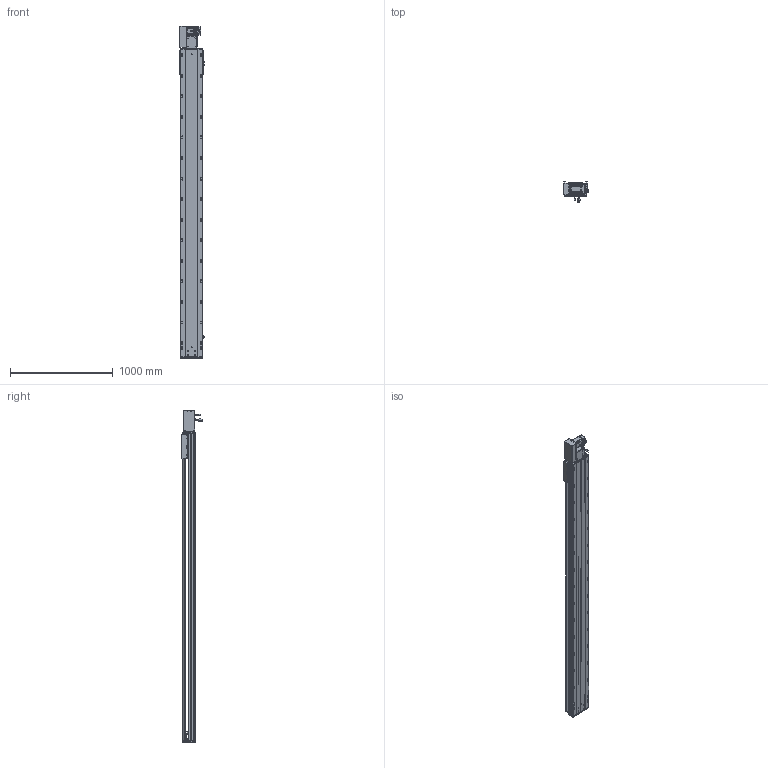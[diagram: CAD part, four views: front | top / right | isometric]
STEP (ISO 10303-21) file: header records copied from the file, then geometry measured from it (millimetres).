
FILE_DESCRIPTION (( 'STEP AP203' ), '1' );
FILE_NAME ('RY220-T-300-LK.SLDASM_2650.step', '2022-07-25T08:16:08', ( '' ), ( '' ), 'SwSTEP 2.0', 'SolidWorks 2016', '' );
FILE_SCHEMA (( 'CONFIG_CONTROL_DESIGN' ));
Length unit declared in the file: millimetre
Products named in the file (14): 覜茼ん672; RY220圉猾敕々湍臏賑輸; RY220-T菁釱-300_2650; RY220翋肮祭謫釱; 怢湛750W_ECMA-CX0807ES; 滅袉蝶18-15; RY220-T-蛌殏萇儂假蚾啣(750W); RY220-同步轮副支撑座6304×2; RY220翋肮祭謫裔啣; RY220-俋离672覜茼んえ; RY220-T-湍謫欶(鍼踢); RY220-T-300-奻裔啣_2650; RY220-T-300-LK.SLDASM_2650; 110A-T-肮祭謫釱傷裔
Assembly tree (18 placements, depth 2):
  RY220-T-300-LK.SLDASM_2650
    RY220-T菁釱-300_2650
    RY220翋肮祭謫釱
    覜茼ん672  x3
    RY220圉猾敕々湍臏賑輸
    RY220-T-300-奻裔啣_2650
    RY220-俋离672覜茼んえ
    滅袉蝶18-15  x3
    RY220翋肮祭謫裔啣  x2
    110A-T-肮祭謫釱傷裔
    怢湛750W_ECMA-CX0807ES
    RY220-T-湍謫欶(鍼踢)
    RY220-T-蛌殏萇儂假蚾啣(750W)
    RY220-同步轮副支撑座6304×2
Bounding box: 239.7 x 198.77 x 3229 mm (x, y, z)
Volume: 22935022 mm3; surface area: 7061460.5 mm2
Topology: 19 solids, 19 shells, 2966 faces, 8207 edges, 5148 vertices
Faces by surface type: cylinder 1458, plane 1069, cone 357, bspline 56, sphere 16, torus 10
Entity records: 98995 total; most frequent: CARTESIAN_POINT 27985, ORIENTED_EDGE 14682, DIRECTION 14144, EDGE_CURVE 7341, AXIS2_PLACEMENT_3D 5096, VERTEX_POINT 4772, LINE 3952, VECTOR 3952
